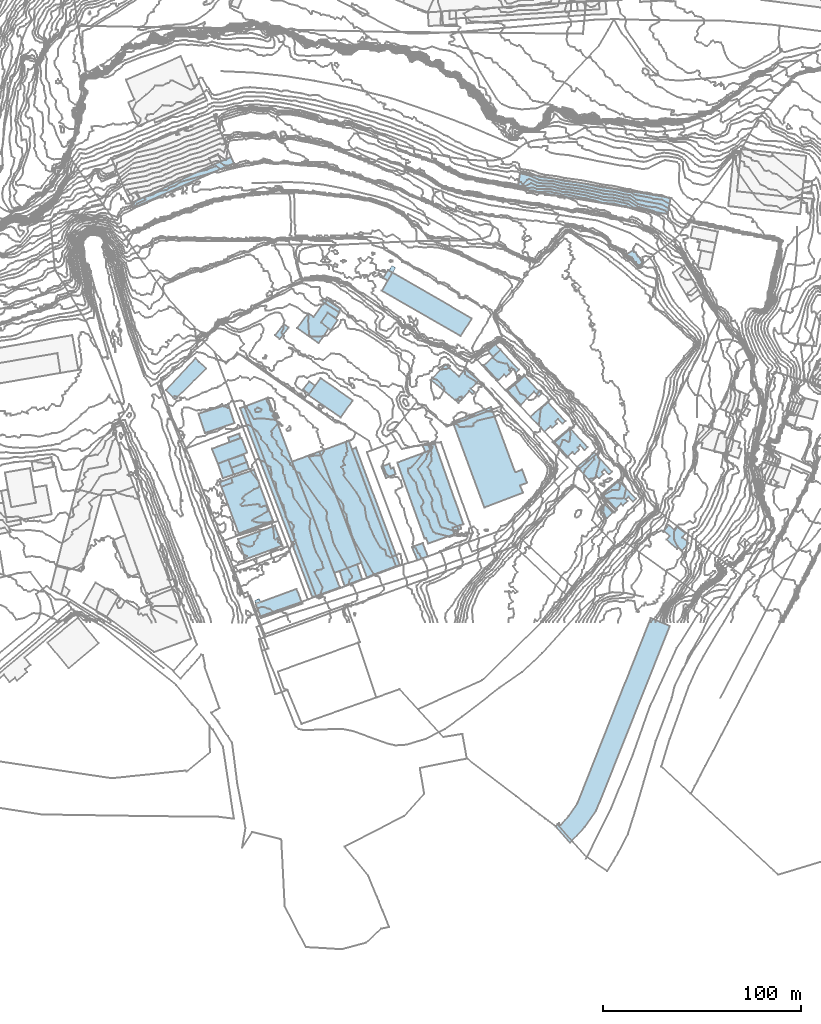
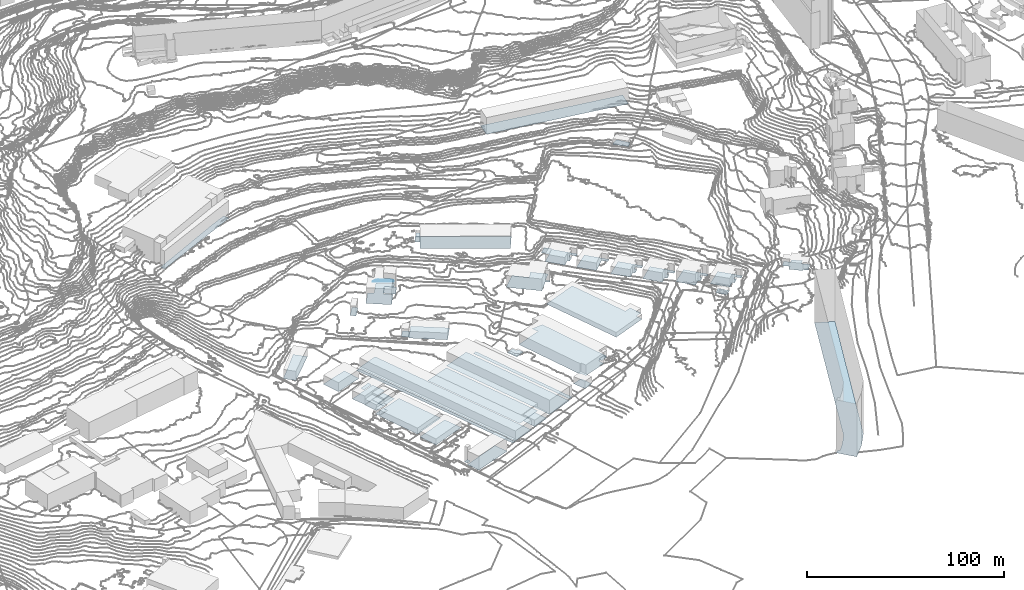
# Not in any storey, part 4 of 419: 46 footings.
"""IFC2X3 model written with IfcOpenShell, lengths in metres."""

import ifcopenshell
import ifcopenshell.guid

model = None  # the IFC model being written
_history = None  # IfcOwnerHistory: only IFC2X3 demands one
_inside = {}  # id of a spatial element -> (the spatial element, [elements in it])
_under = {}  # id of a project, library or spatial element -> (it, [spatial elements below it])
_declared = {}  # id of a project -> (the project, [libraries it declares])
_typed = {}  # id of a type object -> (the type object, [elements of that type])
_made_of = {}  # id of a material, layer set ... -> (it, [elements and type objects made of it])


def new_model(schema):
    """Start an empty IFC model of exactly this schema.

    Asked for "IFC4X3", IfcOpenShell would pick the latest addendum, in which some entities
    have other attributes; the version numbers below select the first issue.
    IFC2X3 requires an IfcOwnerHistory on every rooted entity: one is made here for all.
    """
    global model, _history
    if schema == "IFC4X3":
        model = ifcopenshell.file(schema_version=(4, 3, 0, 0))
    else:
        model = ifcopenshell.file(schema=schema)
    _inside.clear()
    _under.clear()
    _declared.clear()
    _typed.clear()
    _made_of.clear()
    _history = None
    if model.schema == "IFC2X3":
        org = make("IfcOrganization", Name="unknown")
        user = make(
            "IfcPersonAndOrganization",
            ThePerson=make("IfcPerson", FamilyName="unknown"),
            TheOrganization=org,
        )
        app = make(
            "IfcApplication",
            ApplicationDeveloper=org,
            Version="unknown",
            ApplicationFullName="unknown",
            ApplicationIdentifier="unknown",
        )
        _history = make(
            "IfcOwnerHistory",
            OwningUser=user,
            OwningApplication=app,
            ChangeAction="ADDED",
            CreationDate=0,
        )
    return model


def make(cls, **values):
    """One entity of the class cls with the attributes given. An attribute that is None is left unset."""
    return model.create_entity(
        cls, **{name: value for name, value in values.items() if value is not None}
    )


def rooted(cls, **values):
    """An entity with a GlobalId (a new one), such as an element, a storey or a relation."""
    return make(cls, GlobalId=ifcopenshell.guid.new(), OwnerHistory=_history, **values)


def si_unit(unit_type, name, prefix=None):
    """IfcSIUnit, for example si_unit("LENGTHUNIT", "METRE", prefix="MILLI")."""
    return make("IfcSIUnit", UnitType=unit_type, Prefix=prefix, Name=name)


def assignment(units):
    """IfcUnitAssignment: the units of a project."""
    return None if units is None else make("IfcUnitAssignment", Units=units)


def point(xyz):
    """IfcCartesianPoint."""
    return None if xyz is None else make("IfcCartesianPoint", Coordinates=xyz)


def direction(xyz):
    """IfcDirection."""
    return None if xyz is None else make("IfcDirection", DirectionRatios=xyz)


def frame(location, z_axis=None, x_axis=None):
    """IfcAxis2Placement3D, a coordinate frame: its origin and axes. An axis left out is left unset."""
    return make(
        "IfcAxis2Placement3D",
        Location=point(location),
        Axis=direction(z_axis),
        RefDirection=direction(x_axis),
    )


def origin_with_axes():
    """The frame at (0, 0, 0) with the z axis (0, 0, 1) and the x axis (1, 0, 0) written out."""
    return frame((0.0, 0.0, 0.0), z_axis=(0.0, 0.0, 1.0), x_axis=(1.0, 0.0, 0.0))


def place(relative_to, where):
    """IfcLocalPlacement: puts the frame where relative to a parent placement (None: the world)."""
    return make(
        "IfcLocalPlacement", PlacementRelTo=relative_to, RelativePlacement=where
    )


def context(
    kind, dimensions, precision=None, world=None, true_north=None, identifier=None
):
    """IfcGeometricRepresentationContext, for example the 3D "Model" context."""
    return make(
        "IfcGeometricRepresentationContext",
        ContextIdentifier=identifier,
        ContextType=kind,
        CoordinateSpaceDimension=dimensions,
        Precision=precision,
        WorldCoordinateSystem=world,
        TrueNorth=true_north,
    )


def subcontext(parent, identifier, kind, view, scale=None):
    """IfcGeometricRepresentationSubContext, for example "Body" below "Model"."""
    return make(
        "IfcGeometricRepresentationSubContext",
        ContextIdentifier=identifier,
        ContextType=kind,
        ParentContext=parent,
        TargetScale=scale,
        TargetView=view,
    )


def project(units=None, contexts=None):
    """IfcProject with its units and contexts."""
    return rooted(
        "IfcProject",
        Name="project",
        RepresentationContexts=contexts,
        UnitsInContext=assignment(units),
    )


def faces_of(points, faces, orient=None, outer=None):
    """IfcFace entities. A face is a list of loops; a loop is a list of indices into points, from 0.

    orient and outer hold one flag for each loop. By default every Orientation is true, the
    first loop of a face is its IfcFaceOuterBound and the others are IfcFaceBound.
    """
    made = []
    for i, loops in enumerate(faces):
        bounds = []
        for j, loop in enumerate(loops):
            is_outer = j == 0 if outer is None else outer[i][j]
            bounds.append(
                make(
                    "IfcFaceOuterBound" if is_outer else "IfcFaceBound",
                    Bound=make("IfcPolyLoop", Polygon=[points[k] for k in loop]),
                    Orientation=True if orient is None else orient[i][j],
                )
            )
        made.append(make("IfcFace", Bounds=bounds))
    return made


def faceted_brep(points, faces, orient=None, outer=None, voids=None):
    """IfcFacetedBrep: a solid bounded by flat faces; with voids (closed shells), ...WithVoids."""
    shared = [point(p) for p in points]
    hull = make("IfcClosedShell", CfsFaces=faces_of(shared, faces, orient, outer))
    if voids is None:
        return make("IfcFacetedBrep", Outer=hull)
    return make(
        "IfcFacetedBrepWithVoids",
        Outer=hull,
        Voids=[
            make(cls, CfsFaces=faces_of(shared, fs, o, b)) for cls, fs, o, b in voids
        ],
    )


def shape(context_of_items, identifier, shape_type, items):
    """IfcShapeRepresentation: the items that make up one representation, for example the "Body"."""
    return make(
        "IfcShapeRepresentation",
        ContextOfItems=context_of_items,
        RepresentationIdentifier=identifier,
        RepresentationType=shape_type,
        Items=items,
    )


def made_of(thing, what):
    """Note that an element or type object is made of a material, layer set ...; save() writes the relation."""
    if what is not None:
        _made_of.setdefault(what.id(), (what, []))[1].append(thing)
    return thing


def element(
    cls,
    number,
    at=None,
    inside=None,
    cuts=None,
    type_object=None,
    material=None,
    context=None,
    identifier="Body",
    shape_type=None,
    held_by="IfcProductDefinitionShape",
    body=None,
    shapes=None,
    **own,
):
    """One element of the class cls, such as IfcWall. Its Tag is "e" and its number.

    at: its placement. inside: the storey or other place that contains it. cuts: it is an
    opening in that element (IfcRelVoidsElement). A single representation is given by context,
    identifier, shape_type and body (its items); several are given by shapes. held_by: the class
    of the entity that holds the representations. save() writes the other relations.
    """
    e = rooted(cls, Tag="e%d" % number, ObjectPlacement=at, **own)
    if body is not None:
        shapes = [shape(context, identifier, shape_type, body)]
    if shapes is not None:
        e.Representation = make(held_by, Representations=shapes)
    if inside is not None:
        _inside.setdefault(inside.id(), (inside, []))[1].append(e)
    if cuts is not None:
        rooted(
            "IfcRelVoidsElement", RelatingBuildingElement=cuts, RelatedOpeningElement=e
        )
    if type_object is not None:
        _typed.setdefault(type_object.id(), (type_object, []))[1].append(e)
    return made_of(e, material)


def aggregate(whole, parts):
    """IfcRelAggregates: a whole, such as a stair, and the parts it consists of."""
    return rooted("IfcRelAggregates", RelatingObject=whole, RelatedObjects=parts)


def save(model, path):
    """Write the relations noted so far, then the file.

    IfcRelAggregates (storeys below a building ...), IfcRelContainedInSpatialStructure (elements
    in a storey), IfcRelDefinesByType, IfcRelAssociatesMaterial and IfcRelDeclares: one each for
    every whole, place, type object, material and project.
    """
    for whole, parts in _under.values():
        aggregate(whole, parts)
    for where, things in _inside.values():
        rooted(
            "IfcRelContainedInSpatialStructure",
            RelatedElements=things,
            RelatingStructure=where,
        )
    for kind, things in _typed.values():
        rooted("IfcRelDefinesByType", RelatedObjects=things, RelatingType=kind)
    for what, things in _made_of.values():
        rooted("IfcRelAssociatesMaterial", RelatedObjects=things, RelatingMaterial=what)
    for by, libraries in _declared.values():
        rooted("IfcRelDeclares", RelatingContext=by, RelatedDefinitions=libraries)
    model.write(path)


model = new_model("IFC2X3")

# Units and contexts
model_context = context("Model", 3, precision=1e-05, world=origin_with_axes())
body_context = subcontext(model_context, "Body", "Model", "MODEL_VIEW")
ifc_project = project(units=[si_unit("AREAUNIT", "SQUARE_METRE"), si_unit("LENGTHUNIT", "METRE")], contexts=[model_context])

# Footings
footing_1_placement = place(None, frame((421.3920204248, 172.2976909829, 35.0897986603), z_axis=(0.0, 0.0, 1.0), x_axis=(1.0, 0.0, 0.0)))
element("IfcFooting", 1, at=footing_1_placement, Name="Sol 0", PredefinedType="STRIP_FOOTING", context=body_context, shape_type="Brep", body=[
    faceted_brep([(4.7, 2.6999999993, 0.0), (2.2999999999, -1.3000000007, 0.0), (0.0, 0.0, 0.0), (2.3999999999, 4.0, 0.0)], [[[0, 1, 2]], [[2, 3, 0]]]),
])
footing_2_placement = place(None, frame((344.7920204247, 76.4976909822, 20.0280004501), z_axis=(0.0, 0.0, 1.0), x_axis=(1.0, 0.0, 0.0)))
element("IfcFooting", 2, at=footing_2_placement, Name="Sol 0", PredefinedType="STRIP_FOOTING", context=body_context, shape_type="Brep", body=[
    faceted_brep([(9.0, -0.5999999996, 0.0), (1.2000000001, -3.3999999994, 0.0), (0.0, 0.0, 0.0), (7.8, 2.9000000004, 0.0)], [[[0, 1, 2]], [[2, 3, 0]]]),
])
footing_3_placement = place(None, frame((343.1920204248, 91.6976909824, 20.6824001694), z_axis=(0.0, 0.0, 1.0), x_axis=(1.0, 0.0, 0.0)))
element("IfcFooting", 3, at=footing_3_placement, Name="Sol 0", PredefinedType="STRIP_FOOTING", context=body_context, shape_type="Brep", body=[
    faceted_brep([(6.1, -0.2000000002, 0.0), (0.6, -2.2000000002, 0.0), (0.0, 0.0, 0.0), (5.6, 2.1000000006, 0.0)], [[[0, 1, 2]], [[2, 3, 0]]]),
])
footing_4_placement = place(None, frame((311.6920204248, 115.7976909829, 23.0439993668), z_axis=(0.0, 0.0, 1.0), x_axis=(1.0, 0.0, 0.0)))
element("IfcFooting", 4, at=footing_4_placement, Name="Sol 0", PredefinedType="STRIP_FOOTING", context=body_context, shape_type="Brep", body=[
    faceted_brep([(0.0, 0.0, 0.0), (15.0, 16.0, 0.0), (16.8, 14.1999999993, 0.0), (20.3, 10.6999999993, 0.0), (4.6, -4.6000000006, 0.0)], [[[0, 1, 2]], [[3, 4, 0]], [[0, 2, 3]]]),
])
footing_5_placement = place(None, frame((489.2920204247, 217.2976909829, 50.7399997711), z_axis=(0.0, 0.0, 1.0), x_axis=(1.0, 0.0, 0.0)))
element("IfcFooting", 5, at=footing_5_placement, Name="Sol 0", PredefinedType="STRIP_FOOTING", context=body_context, shape_type="Brep", body=[
    faceted_brep([(0.0, 0.0, 0.0), (1.3, 8.0999999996, 0.0), (77.3, -4.5, 0.0), (75.9, -12.7000000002, 0.0)], [[[0, 1, 2]], [[2, 3, 0]]]),
])
footing_6_placement = place(None, frame((366.6920204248, 143.3976909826, 26.1219998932), z_axis=(0.0, 0.0, 1.0), x_axis=(1.0, 0.0, 0.0)))
element("IfcFooting", 6, at=footing_6_placement, Name="Sol 0", PredefinedType="STRIP_FOOTING", context=body_context, shape_type="Brep", body=[
    faceted_brep([(4.5, 5.7999999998, 0.0), (6.9, 3.9000000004, 0.0), (2.5, -1.7999999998, 0.0), (0.0, 0.0, 0.0)], [[[0, 1, 2]], [[2, 3, 0]]]),
])
footing_7_placement = place(None, frame((472.3920204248, 128.2976909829, 31.6524000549), z_axis=(0.0, 0.0, 1.0), x_axis=(1.0, 0.0, 0.0)))
element("IfcFooting", 7, at=footing_7_placement, Name="Sol 0", PredefinedType="STRIP_FOOTING", context=body_context, shape_type="Brep", body=[
    faceted_brep([(7.2, -7.6000000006, 0.0), (0.0, 0.0, 0.0), (8.2999999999, 7.7999999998, 0.0), (13.5, -3.5, 0.0), (11.1, -5.7000000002, 0.0), (10.2, -4.8000000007, 0.0), (17.7, -2.3000000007, 0.0), (16.2, -3.6000000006, 0.0), (14.0, -1.2000000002, 0.0), (12.6, -2.5, 0.0)], [[[0, 1, 2]], [[3, 4, 5]], [[6, 7, 8]], [[5, 0, 2]], [[9, 3, 5]], [[2, 6, 8]], [[9, 5, 2]], [[2, 8, 9]]]),
])
footing_8_placement = place(None, frame((343.2920204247, 80.5976909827, 20.1700000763), z_axis=(0.0, 0.0, 1.0), x_axis=(1.0, 0.0, 0.0)))
element("IfcFooting", 8, at=footing_8_placement, Name="Sol 0", PredefinedType="STRIP_FOOTING", context=body_context, shape_type="Brep", body=[
    faceted_brep([(1.5, -4.1000000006, 0.0), (0.0, 0.0, 0.0), (7.7000000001, 2.5, 0.0), (9.3, -1.2000000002, 0.0)], [[[0, 1, 2]], [[2, 3, 0]]]),
])
footing_9_placement = place(None, frame((380.8920204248, 115.9976909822, 24.6870004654), z_axis=(0.0, 0.0, 1.0), x_axis=(1.0, 0.0, 0.0)))
element("IfcFooting", 9, at=footing_9_placement, Name="Sol 0", PredefinedType="STRIP_FOOTING", context=body_context, shape_type="Brep", body=[
    faceted_brep([(6.1, 1.9000000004, 0.0), (3.1, -2.2999999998, 0.0), (0.0, 0.0, 0.0), (3.1, 4.1000000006, 0.0)], [[[0, 1, 2]], [[2, 3, 0]]]),
])
footing_10_placement = place(None, frame((405.7920204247, 85.7976909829, 23.8416001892), z_axis=(0.0, 0.0, 1.0), x_axis=(1.0, 0.0, 0.0)))
element("IfcFooting", 10, at=footing_10_placement, Name="Sol 0", PredefinedType="STRIP_FOOTING", context=body_context, shape_type="Brep", body=[
    faceted_brep([(1.9, 0.8999999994, 0.0), (24.1000000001, -58.4000000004, 0.0), (22.1000000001, -59.0, 0.0), (0.0, 0.0, 0.0)], [[[0, 1, 2]], [[2, 3, 0]]]),
])
footing_11_placement = place(None, frame((389.2920204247, 84.6976909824, 22.6495998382), z_axis=(0.0, 0.0, 1.0), x_axis=(1.0, 0.0, 0.0)))
element("IfcFooting", 11, at=footing_11_placement, Name="Sol 0", PredefinedType="STRIP_FOOTING", context=body_context, shape_type="Brep", body=[
    faceted_brep([(14.8, 5.5, 0.0), (38.6000000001, -57.8999999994, 0.0), (23.9, -63.5, 0.0), (0.0, 0.0, 0.0)], [[[0, 1, 2]], [[2, 3, 0]]]),
])
footing_12_placement = place(None, frame((456.4920204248, 46.1976909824, 26.6595002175), z_axis=(0.0, 0.0, 1.0), x_axis=(1.0, 0.0, 0.0)))
element("IfcFooting", 12, at=footing_12_placement, Name="Sol 0", PredefinedType="STRIP_FOOTING", context=body_context, shape_type="Brep", body=[
    faceted_brep([(4.4, -0.5, 0.0), (0.6, -1.8999999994, 0.0), (0.0, 0.0, 0.0), (3.9, 1.4000000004, 0.0)], [[[0, 1, 2]], [[2, 3, 0]]]),
])
footing_13_placement = place(None, frame((420.6920204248, 165.8976909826, 35.0520011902), z_axis=(0.0, 0.0, 1.0), x_axis=(1.0, 0.0, 0.0)))
element("IfcFooting", 13, at=footing_13_placement, Name="Sol 0", PredefinedType="STRIP_FOOTING", context=body_context, shape_type="Brep", body=[
    faceted_brep([(0.0, 0.0, 0.0), (3.0, 5.0999999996, 0.0), (5.4, 9.0999999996, 0.0), (45.5, -14.0, 0.0), (39.8, -22.9000000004, 0.0)], [[[0, 1, 2]], [[3, 4, 0]], [[0, 2, 3]]]),
])
footing_14_placement = place(None, frame((337.9920204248, 78.5976909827, 20.0227003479), z_axis=(0.0, 0.0, 1.0), x_axis=(1.0, 0.0, 0.0)))
element("IfcFooting", 14, at=footing_14_placement, Name="Sol 0", PredefinedType="STRIP_FOOTING", context=body_context, shape_type="Brep", body=[
    faceted_brep([(5.2999999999, 2.0, 0.0), (8.0, -5.5, 0.0), (2.5, -7.2999999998, 0.0), (0.0, 0.0, 0.0)], [[[0, 1, 2]], [[2, 3, 0]]]),
])
footing_15_placement = place(None, frame((334.8920204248, 86.0976909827, 20.3079998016), z_axis=(0.0, 0.0, 1.0), x_axis=(1.0, 0.0, 0.0)))
element("IfcFooting", 15, at=footing_15_placement, Name="Sol 0", PredefinedType="STRIP_FOOTING", context=body_context, shape_type="Brep", body=[
    faceted_brep([(17.8999999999, -1.9000000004, 0.0), (3.1, -7.5, 0.0), (0.0, 0.0, 0.0), (15.0, 5.5, 0.0)], [[[0, 1, 2]], [[2, 3, 0]]]),
])
footing_16_placement = place(None, frame((445.2920204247, 120.8976909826, 29.7809999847), z_axis=(0.0, 0.0, 1.0), x_axis=(1.0, 0.0, 0.0)))
element("IfcFooting", 16, at=footing_16_placement, Name="Sol 0", PredefinedType="STRIP_FOOTING", context=body_context, shape_type="Brep", body=[
    faceted_brep([(14.5, 1.5999999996, 0.0), (17.3, 5.5, 0.0), (24.3, -0.4000000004, 0.0), (0.0, 0.0, 0.0), (7.7000000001, 7.5999999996, 0.0), (19.6000000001, -5.7000000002, 0.0), (14.1000000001, -11.7999999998, 0.0), (22.2000000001, -6.2000000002, 0.0), (21.3, -7.2000000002, 0.0), (20.4, -4.5, 0.0)], [[[0, 1, 2]], [[3, 4, 0]], [[5, 6, 3]], [[7, 8, 5]], [[0, 2, 9]], [[5, 3, 0]], [[9, 7, 5]], [[5, 0, 9]]]),
])
footing_17_placement = place(None, frame((357.0920204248, 7.6976909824, 19.3652006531), z_axis=(0.0, 0.0, 1.0), x_axis=(1.0, 0.0, 0.0)))
element("IfcFooting", 17, at=footing_17_placement, Name="Sol 0", PredefinedType="STRIP_FOOTING", context=body_context, shape_type="Brep", body=[
    faceted_brep([(23.5, 0.2000000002, 0.0), (2.7, -7.0999999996, 0.0), (0.0, 0.0, 0.0), (20.6, 7.6000000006, 0.0)], [[[0, 1, 2]], [[2, 3, 0]]]),
])
footing_18_placement = place(None, frame((519.3920204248, 76.9976909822, 33.9335998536), z_axis=(0.0, 0.0, 1.0), x_axis=(1.0, 0.0, 0.0)))
element("IfcFooting", 18, at=footing_18_placement, Name="Sol 0", PredefinedType="STRIP_FOOTING", context=body_context, shape_type="Brep", body=[
    faceted_brep([(7.1, -7.6999999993, 0.0), (0.0, 0.0, 0.0), (8.7, 7.3000000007, 0.0), (13.3999999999, -3.5999999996, 0.0), (11.0, -5.7999999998, 0.0), (10.1, -4.8999999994, 0.0), (17.6, -2.3999999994, 0.0), (16.1, -3.7999999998, 0.0), (13.8999999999, -1.3999999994, 0.0), (12.5, -2.5999999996, 0.0)], [[[0, 1, 2]], [[3, 4, 5]], [[6, 7, 8]], [[5, 0, 2]], [[9, 3, 5]], [[2, 6, 8]], [[9, 5, 2]], [[2, 8, 9]]]),
])
footing_19_placement = place(None, frame((530.3920204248, 55.4976909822, 36.1887983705), z_axis=(0.0, 0.0, 1.0), x_axis=(1.0, 0.0, 0.0)))
element("IfcFooting", 19, at=footing_19_placement, Name="Sol 0", PredefinedType="STRIP_FOOTING", context=body_context, shape_type="Brep", body=[
    faceted_brep([(2.7999999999, 2.8000000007, 0.0), (7.0, -1.6999999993, 0.0), (4.1, -4.2999999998, 0.0), (0.0, 0.0, 0.0)], [[[0, 1, 2]], [[2, 3, 0]]]),
])
footing_20_placement = place(None, frame((349.1920204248, 106.5976909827, 20.5634006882), z_axis=(0.0, 0.0, 1.0), x_axis=(1.0, 0.0, 0.0)))
element("IfcFooting", 20, at=footing_20_placement, Name="Sol 0", PredefinedType="STRIP_FOOTING", context=body_context, shape_type="Brep", body=[
    faceted_brep([(38.4, -94.9000000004, 0.0), (36.5, -95.2999999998, 0.0), (0.0, 0.0, 0.0), (2.2000000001, 0.7999999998, 0.0)], [[[0, 1, 2]], [[2, 3, 0]]]),
])
footing_21_placement = place(None, frame((428.5920204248, 79.0976909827, 25.4969999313), z_axis=(0.0, 0.0, 1.0), x_axis=(1.0, 0.0, 0.0)))
element("IfcFooting", 21, at=footing_21_placement, Name="Sol 0", PredefinedType="STRIP_FOOTING", context=body_context, shape_type="Brep", body=[
    faceted_brep([(19.1, 9.2999999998, 0.0), (33.4, -31.1000000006, 0.0), (27.9, -32.9000000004, 0.0), (14.2, 5.2999999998, 0.0), (12.8, 8.7000000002, 0.0), (13.8, -38.2999999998, 0.0), (0.0, 0.0, 0.0), (28.9, -36.1000000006, 0.0), (15.6, -40.9000000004, 0.0), (14.5, -38.0, 0.0)], [[[0, 1, 2]], [[3, 4, 0]], [[5, 6, 3]], [[7, 8, 9]], [[3, 0, 2]], [[9, 5, 3]], [[2, 7, 9]], [[9, 3, 2]]]),
])
footing_22_placement = place(None, frame((338.7920204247, 69.1976909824, 20.0052000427), z_axis=(0.0, 0.0, 1.0), x_axis=(1.0, 0.0, 0.0)))
element("IfcFooting", 22, at=footing_22_placement, Name="Sol 0", PredefinedType="STRIP_FOOTING", context=body_context, shape_type="Brep", body=[
    faceted_brep([(6.6000000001, -0.2000000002, 0.0), (0.9, -2.2999999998, 0.0), (0.0, 0.0, 0.0), (5.9, 2.2000000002, 0.0)], [[[0, 1, 2]], [[2, 3, 0]]]),
])
footing_23_placement = place(None, frame((508.4920204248, -104.6023090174, 41.7790016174), z_axis=(0.0, 0.0, 1.0), x_axis=(1.0, 0.0, 0.0)))
element("IfcFooting", 23, at=footing_23_placement, Name="Sol 0", PredefinedType="STRIP_FOOTING", context=body_context, shape_type="Brep", body=[
    faceted_brep([(7.2999999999, -8.2999999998, 0.0), (0.0, 0.0, 0.0), (1.7999999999, 1.5, 0.0), (20.5, 7.7999999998, 0.0), (14.7, -0.4000000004, 0.0), (48.1, 105.2000000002, 0.0), (57.7, 101.0999999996, 0.0), (2.6, 0.5999999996, 0.0), (6.6, 5.2000000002, 0.0), (11.0, 11.5, 0.0)], [[[0, 1, 2]], [[3, 4, 0]], [[5, 6, 3]], [[0, 2, 7]], [[5, 3, 0]], [[0, 7, 8]], [[9, 5, 0]], [[0, 8, 9]]]),
])
footing_24_placement = place(None, frame((435.9920204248, 36.4976909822, 24.4427996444), z_axis=(0.0, 0.0, 1.0), x_axis=(1.0, 0.0, 0.0)))
element("IfcFooting", 24, at=footing_24_placement, Name="Sol 0", PredefinedType="STRIP_FOOTING", context=body_context, shape_type="Brep", body=[
    faceted_brep([(5.5, 2.0, 0.0), (8.0, -4.6999999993, 0.0), (2.7999999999, -6.6999999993, 0.0), (0.0, 0.0, 0.0)], [[[0, 1, 2]], [[2, 3, 0]]]),
])
footing_25_placement = place(None, frame((474.3920204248, 135.5976909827, 32.0834997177), z_axis=(0.0, 0.0, 1.0), x_axis=(1.0, 0.0, 0.0)))
element("IfcFooting", 25, at=footing_25_placement, Name="Sol 0", PredefinedType="STRIP_FOOTING", context=body_context, shape_type="Brep", body=[
    faceted_brep([(6.2999999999, 0.5, 0.0), (2.7, -2.9000000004, 0.0), (0.0, 0.0, 0.0), (3.5, 3.2999999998, 0.0)], [[[0, 1, 2]], [[2, 3, 0]]]),
])
footing_26_placement = place(None, frame((356.3920204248, 9.4976909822, 20.2654003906), z_axis=(0.0, 0.0, 1.0), x_axis=(1.0, 0.0, 0.0)))
element("IfcFooting", 26, at=footing_26_placement, Name="Sol 0", PredefinedType="STRIP_FOOTING", context=body_context, shape_type="Brep", body=[
    faceted_brep([(3.1, -0.8999999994, 0.0), (0.7, -1.7999999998, 0.0), (0.0, 0.0, 0.0), (2.3999999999, 1.0, 0.0)], [[[0, 1, 2]], [[2, 3, 0]]]),
])
footing_27_placement = place(None, frame((377.9920204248, 146.9976909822, 27.5247998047), z_axis=(0.0, 0.0, 1.0), x_axis=(1.0, 0.0, 0.0)))
element("IfcFooting", 27, at=footing_27_placement, Name="Sol 0", PredefinedType="STRIP_FOOTING", context=body_context, shape_type="Brep", body=[
    faceted_brep([(12.0, 2.9000000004, 0.0), (15.7999999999, -0.1999999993, 0.0), (10.7999999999, -7.5999999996, 0.0), (21.2999999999, 7.8000000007, 0.0), (19.5, 5.0, 0.0), (15.4, 7.8000000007, 0.0), (0.0, 0.0, 0.0), (5.5, 7.5, 0.0), (8.2, 5.7000000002, 0.0), (13.4, 12.9000000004, 0.0)], [[[0, 1, 2]], [[3, 4, 5]], [[6, 7, 8]], [[0, 2, 6]], [[9, 3, 5]], [[0, 6, 8]], [[9, 5, 0]], [[0, 8, 9]]]),
])
footing_28_placement = place(None, frame((456.5920204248, 99.6976909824, 28.288000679), z_axis=(0.0, 0.0, 1.0), x_axis=(1.0, 0.0, 0.0)))
element("IfcFooting", 28, at=footing_28_placement, Name="Sol 0", PredefinedType="STRIP_FOOTING", context=body_context, shape_type="Brep", body=[
    faceted_brep([(16.0, -43.2000000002, 0.0), (0.0, 0.0, 0.0), (19.4, 7.4000000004, 0.0), (34.1, -32.0999999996, 0.0), (35.4, -35.7999999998, 0.0), (35.1, -24.2000000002, 0.0), (37.6, -30.7999999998, 0.0), (31.6, -25.5, 0.0)], [[[0, 1, 2]], [[3, 4, 0]], [[5, 6, 3]], [[0, 2, 7]], [[5, 3, 0]], [[0, 7, 5]]]),
])
footing_29_placement = place(None, frame((495.7920204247, 102.3976909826, 31.7419998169), z_axis=(0.0, 0.0, 1.0), x_axis=(1.0, 0.0, 0.0)))
element("IfcFooting", 29, at=footing_29_placement, Name="Sol 0", PredefinedType="STRIP_FOOTING", context=body_context, shape_type="Brep", body=[
    faceted_brep([(7.2000000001, -7.5999999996, 0.0), (0.0, 0.0, 0.0), (8.7000000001, 7.4000000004, 0.0), (13.5, -3.5, 0.0), (11.0, -5.7000000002, 0.0), (10.2000000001, -4.7999999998, 0.0), (17.7000000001, -2.2000000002, 0.0), (16.2000000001, -3.5999999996, 0.0), (13.9, -1.2000000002, 0.0), (12.6000000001, -2.5, 0.0)], [[[0, 1, 2]], [[3, 4, 5]], [[6, 7, 8]], [[5, 0, 2]], [[9, 3, 5]], [[2, 6, 8]], [[9, 5, 2]], [[2, 8, 9]]]),
])
footing_30_placement = place(None, frame((507.0920204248, 89.3976909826, 32.5799999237), z_axis=(0.0, 0.0, 1.0), x_axis=(1.0, 0.0, 0.0)))
element("IfcFooting", 30, at=footing_30_placement, Name="Sol 0", PredefinedType="STRIP_FOOTING", context=body_context, shape_type="Brep", body=[
    faceted_brep([(7.1, -7.7000000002, 0.0), (0.0, 0.0, 0.0), (8.6, 7.4000000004, 0.0), (13.4, -3.7000000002, 0.0), (11.0, -5.9000000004, 0.0), (10.1, -4.9000000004, 0.0), (17.6, -2.5, 0.0), (16.1, -3.9000000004, 0.0), (13.9, -1.5, 0.0), (12.5, -2.7000000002, 0.0)], [[[0, 1, 2]], [[3, 4, 5]], [[6, 7, 8]], [[5, 0, 2]], [[9, 3, 5]], [[2, 6, 8]], [[9, 5, 2]], [[2, 8, 9]]]),
])
footing_31_placement = place(None, frame((531.3920204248, 62.9976909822, 36.9735998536), z_axis=(0.0, 0.0, 1.0), x_axis=(1.0, 0.0, 0.0)))
element("IfcFooting", 31, at=footing_31_placement, Name="Sol 0", PredefinedType="STRIP_FOOTING", context=body_context, shape_type="Brep", body=[
    faceted_brep([(7.2, -7.5, 0.0), (0.0, 0.0, 0.0), (8.7, 7.4000000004, 0.0), (13.5, -3.2999999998, 0.0), (11.1, -5.5999999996, 0.0), (10.2, -4.6999999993, 0.0), (17.7, -2.0999999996, 0.0), (16.2, -3.5, 0.0), (13.8999999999, -1.0999999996, 0.0), (12.6, -2.3999999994, 0.0)], [[[0, 1, 2]], [[3, 4, 5]], [[6, 7, 8]], [[5, 0, 2]], [[9, 3, 5]], [[2, 6, 8]], [[9, 5, 2]], [[2, 8, 9]]]),
])
footing_32_placement = place(None, frame((383.4920204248, 113.1976909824, 24.6164005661), z_axis=(0.0, 0.0, 1.0), x_axis=(1.0, 0.0, 0.0)))
element("IfcFooting", 32, at=footing_32_placement, Name="Sol 0", PredefinedType="STRIP_FOOTING", context=body_context, shape_type="Brep", body=[
    faceted_brep([(16.4, -11.2999999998, 0.0), (0.0, 0.0, 0.0), (0.5, 0.5, 0.0), (6.2999999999, 8.5, 0.0), (22.5, -2.7000000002, 0.0)], [[[0, 1, 2]], [[3, 4, 0]], [[0, 2, 3]]]),
])
footing_33_placement = place(None, frame((389.9920204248, 149.8976909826, 27.9512001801), z_axis=(0.0, 0.0, 1.0), x_axis=(1.0, 0.0, 0.0)))
element("IfcFooting", 33, at=footing_33_placement, Name="Sol 0", PredefinedType="STRIP_FOOTING", context=body_context, shape_type="Brep", body=[
    faceted_brep([(8.4, 1.0999999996, 0.0), (4.7999999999, -4.0999999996, 0.0), (3.7999999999, -3.0999999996, 0.0), (0.0, 0.0, 0.0), (3.4, 4.9000000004, 0.0)], [[[0, 1, 2]], [[3, 4, 0]], [[0, 2, 3]]]),
])
footing_34_placement = place(None, frame((389.6920204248, 160.9976909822, 28.4696003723), z_axis=(0.0, 0.0, 1.0), x_axis=(1.0, 0.0, 0.0)))
element("IfcFooting", 34, at=footing_34_placement, Name="Sol 0", PredefinedType="STRIP_FOOTING", context=body_context, shape_type="Brep", body=[
    faceted_brep([(10.2000000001, -4.3999999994, 0.0), (9.3, -5.7999999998, 0.0), (0.0, 0.0, 0.0), (1.9, 0.4000000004, 0.0), (3.5, 0.1000000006, 0.0)], [[[0, 1, 2]], [[3, 4, 0]], [[0, 2, 3]]]),
])
footing_35_placement = place(None, frame((294.1920204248, 210.1976909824, 40.9370006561), z_axis=(0.0, 0.0, 1.0), x_axis=(1.0, 0.0, 0.0)))
element("IfcFooting", 35, at=footing_35_placement, Name="Sol 0", PredefinedType="STRIP_FOOTING", context=body_context, shape_type="Brep", body=[
    faceted_brep([(1.1, -2.2999999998, 0.0), (0.0, 0.0, 0.0), (41.1, 19.2999999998, 0.0), (50.5, 23.2999999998, 0.0), (51.8, 20.2000000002, 0.0)], [[[0, 1, 2]], [[3, 4, 0]], [[0, 2, 3]]]),
])
footing_36_placement = place(None, frame((351.3920204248, 107.3976909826, 20.9520000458), z_axis=(0.0, 0.0, 1.0), x_axis=(1.0, 0.0, 0.0)))
element("IfcFooting", 36, at=footing_36_placement, Name="Sol 0", PredefinedType="STRIP_FOOTING", context=body_context, shape_type="Brep", body=[
    faceted_brep([(48.2, -91.2999999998, 0.0), (36.2, -95.7000000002, 0.0), (0.0, 0.0, 0.0), (11.7999999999, 4.5, 0.0)], [[[0, 1, 2]], [[2, 3, 0]]]),
])
footing_37_placement = place(None, frame((339.6920204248, 66.8976909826, 19.655200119), z_axis=(0.0, 0.0, 1.0), x_axis=(1.0, 0.0, 0.0)))
element("IfcFooting", 37, at=footing_37_placement, Name="Sol 0", PredefinedType="STRIP_FOOTING", context=body_context, shape_type="Brep", body=[
    faceted_brep([(8.8, -23.5999999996, 0.0), (0.0, 0.0, 0.0), (5.7000000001, 2.0999999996, 0.0), (16.5, 8.5999999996, 0.0), (26.1, -17.0999999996, 0.0), (5.0, 4.5, 0.0)], [[[0, 1, 2]], [[3, 4, 0]], [[2, 5, 3]], [[3, 0, 2]]]),
])
footing_38_placement = place(None, frame((348.1920204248, 40.3976909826, 19.7797005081), z_axis=(0.0, 0.0, 1.0), x_axis=(1.0, 0.0, 0.0)))
element("IfcFooting", 38, at=footing_38_placement, Name="Sol 0", PredefinedType="STRIP_FOOTING", context=body_context, shape_type="Brep", body=[
    faceted_brep([(18.5, 6.9000000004, 0.0), (22.4, -3.2000000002, 0.0), (3.6, -10.2000000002, 0.0), (0.0, 0.0, 0.0)], [[[0, 1, 2]], [[2, 3, 0]]]),
])
footing_39_placement = place(None, frame((424.1920204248, 176.0976909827, 35.1159988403), z_axis=(0.0, 0.0, 1.0), x_axis=(1.0, 0.0, 0.0)))
element("IfcFooting", 39, at=footing_39_placement, Name="Sol 0", PredefinedType="STRIP_FOOTING", context=body_context, shape_type="Brep", body=[
    faceted_brep([(1.6, 2.5999999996, 0.0), (3.4, 1.5, 0.0), (1.9, -1.1000000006, 0.0), (0.0, 0.0, 0.0)], [[[0, 1, 2]], [[2, 3, 0]]]),
])
footing_40_placement = place(None, frame((420.5920204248, 76.9976909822, 24.4879997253), z_axis=(0.0, 0.0, 1.0), x_axis=(1.0, 0.0, 0.0)))
element("IfcFooting", 40, at=footing_40_placement, Name="Sol 0", PredefinedType="STRIP_FOOTING", context=body_context, shape_type="Brep", body=[
    faceted_brep([(7.2, -3.5999999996, 0.0), (2.3, -5.5999999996, 0.0), (0.0, 0.0, 0.0), (4.8, -0.8999999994, 0.0), (6.1, -0.5, 0.0), (4.0, 1.6000000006, 0.0)], [[[0, 1, 2]], [[3, 4, 0]], [[2, 5, 3]], [[3, 0, 2]]]),
])
footing_41_placement = place(None, frame((328.1920204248, 103.7976909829, 21.125000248), z_axis=(0.0, 0.0, 1.0), x_axis=(1.0, 0.0, 0.0)))
element("IfcFooting", 41, at=footing_41_placement, Name="Sol 0", PredefinedType="STRIP_FOOTING", context=body_context, shape_type="Brep", body=[
    faceted_brep([(0.0, 0.0, 0.0), (15.0, 4.7999999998, 0.0), (18.2000000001, -4.7000000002, 0.0), (3.3, -9.7000000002, 0.0)], [[[0, 1, 2]], [[2, 3, 0]]]),
])
footing_42_placement = place(None, frame((375.3920204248, 79.5976909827, 21.4464002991), z_axis=(0.0, 0.0, 1.0), x_axis=(1.0, 0.0, 0.0)))
element("IfcFooting", 42, at=footing_42_placement, Name="Sol 0", PredefinedType="STRIP_FOOTING", context=body_context, shape_type="Brep", body=[
    faceted_brep([(35.0, -51.0, 0.0), (24.1, -55.2999999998, 0.0), (21.3999999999, -56.1000000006, 0.0), (0.0, 0.0, 0.0), (13.8999999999, 5.0999999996, 0.0)], [[[0, 1, 2]], [[3, 4, 0]], [[0, 2, 3]]]),
])
footing_43_placement = place(None, frame((399.4920204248, 24.2976909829, 21.6103007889), z_axis=(0.0, 0.0, 1.0), x_axis=(1.0, 0.0, 0.0)))
element("IfcFooting", 43, at=footing_43_placement, Name="Sol 0", PredefinedType="STRIP_FOOTING", context=body_context, shape_type="Brep", body=[
    faceted_brep([(11.4, -4.0, 0.0), (2.4, -7.4000000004, 0.0), (0.0, 0.0, 0.0), (8.7999999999, 3.3999999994, 0.0)], [[[0, 1, 2]], [[2, 3, 0]]]),
])
footing_44_placement = place(None, frame((544.0920204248, 184.1976909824, 45.4949996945), z_axis=(0.0, 0.0, 1.0), x_axis=(1.0, 0.0, 0.0)))
element("IfcFooting", 44, at=footing_44_placement, Name="Sol 0", PredefinedType="STRIP_FOOTING", context=body_context, shape_type="Brep", body=[
    faceted_brep([(0.0, 0.0, 0.0), (3.7, 2.4000000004, 0.0), (8.5, -3.5, 0.0), (6.0, -6.0, 0.0)], [[[0, 1, 2]], [[2, 3, 0]]]),
])
footing_45_placement = place(None, frame((563.0920204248, 44.5976909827, 48.1989997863), z_axis=(0.0, 0.0, 1.0), x_axis=(1.0, 0.0, 0.0)))
element("IfcFooting", 45, at=footing_45_placement, Name="Sol 0", PredefinedType="STRIP_FOOTING", context=body_context, shape_type="Brep", body=[
    faceted_brep([(6.5, 2.0999999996, 0.0), (11.0, -1.2999999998, 0.0), (9.3, -3.2999999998, 0.0), (0.0, 0.0, 0.0), (2.5, 2.8999999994, 0.0), (5.3, 0.5999999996, 0.0), (6.8, -9.1000000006, 0.0), (1.4, -4.5, 0.0), (3.0, -2.5, 0.0), (12.7, -6.1000000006, 0.0), (9.4, -10.0, 0.0), (7.4, -8.4000000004, 0.0)], [[[0, 1, 2]], [[3, 4, 5]], [[6, 7, 8]], [[9, 10, 11]], [[5, 0, 2]], [[8, 3, 5]], [[11, 6, 8]], [[2, 9, 11]], [[8, 5, 2]], [[2, 11, 8]]]),
])
footing_46_placement = place(None, frame((483.7920204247, 116.0976909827, 31.6529998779), z_axis=(0.0, 0.0, 1.0), x_axis=(1.0, 0.0, 0.0)))
element("IfcFooting", 46, at=footing_46_placement, Name="Sol 0", PredefinedType="STRIP_FOOTING", context=body_context, shape_type="Brep", body=[
    faceted_brep([(7.2000000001, -7.6000000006, 0.0), (0.0, 0.0, 0.0), (8.7000000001, 7.3999999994, 0.0), (17.7000000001, -2.2000000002, 0.0), (16.2000000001, -3.6000000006, 0.0), (13.9, -1.2000000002, 0.0)], [[[0, 1, 2]], [[3, 4, 5]], [[5, 0, 2]], [[2, 3, 5]]]),
])

save(model, "model.ifc")
